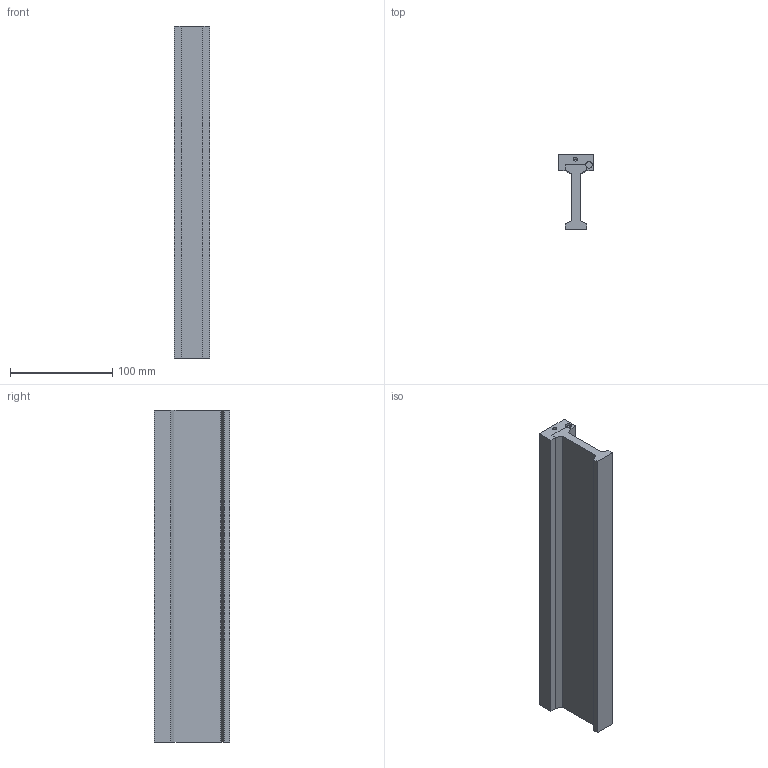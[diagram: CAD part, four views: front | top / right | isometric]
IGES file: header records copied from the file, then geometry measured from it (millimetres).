
Global section: file name: No Iges File Name specified; native system: AutoDesk Inventor R11.0; preprocessor: AutoDesk Inventor Iges Exporter R11.0; author: No Author specified; organization: No Organization specified; date: 20080205.101055; units: inch
Bounding box: 34.29 x 73.66 x 325.12 mm (x, y, z)
Volume: 361143.3 mm3; surface area: 78536.1 mm2
Topology: 1 solids, 1 shells, 49 faces, 125 edges, 71 vertices
Faces by surface type: bspline 28, plane 19, revolution 2
